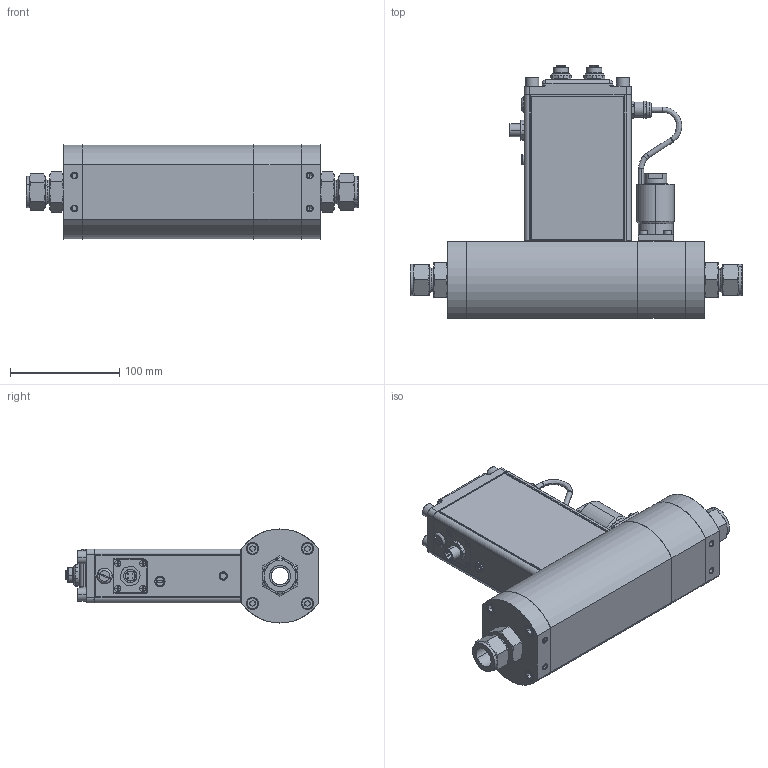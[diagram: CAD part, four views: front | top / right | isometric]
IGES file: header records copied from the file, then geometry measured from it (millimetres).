
Start section: SolidWorks IGES file using analytic representation for surfaces
Global section: file name: G:\Engineering\CAD MODELS FOR SALES\CAD MODEL STORAGE\SLA\SLA5853\IGES\SLA5853-7-2E-2-A-REVB.IGS; native system: SolidWorks 2023; preprocessor: SolidWorks 2023; author: SThen; date: 241119.092924; units: inch
Bounding box: 303.47 x 231.16 x 86.01 mm (x, y, z)
Surface area: 303924.1 mm2 (no closed solid volume)
Topology: 0 solids, 0 shells, 1458 faces, 19866 edges, 19860 vertices
Faces by surface type: revolution 763, bspline 695
